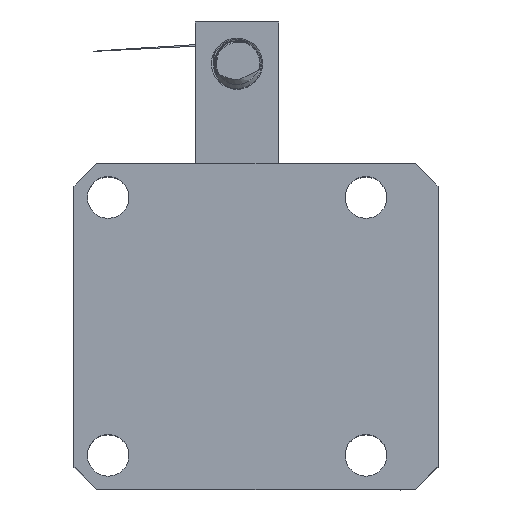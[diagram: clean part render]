
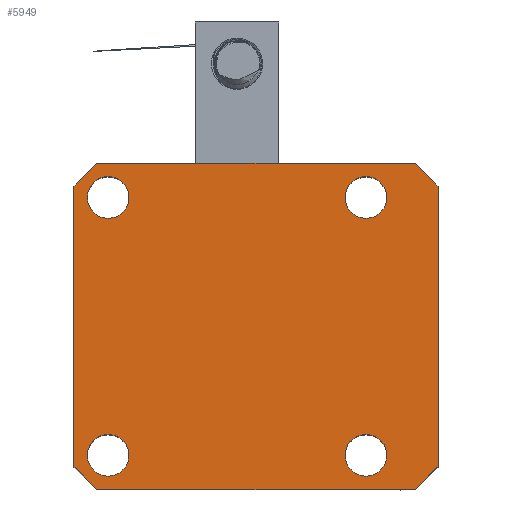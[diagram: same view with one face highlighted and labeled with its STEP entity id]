
A CAD part, top view. The second image highlights one B-rep face of the part: STEP entity #5949.
In plain terms, the highlighted planar face has unit normal (0, 0, 1).
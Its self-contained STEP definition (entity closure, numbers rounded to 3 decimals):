
#367=FACE_BOUND('',#915,.T.);
#368=FACE_BOUND('',#916,.T.);
#369=FACE_BOUND('',#917,.T.);
#370=FACE_BOUND('',#918,.T.);
#420=PLANE('',#6586);
#578=FACE_OUTER_BOUND('',#914,.T.);
#914=EDGE_LOOP('',(#4420,#4421,#4422,#4423,#4424,#4425,#4426,#4427));
#915=EDGE_LOOP('',(#4428));
#916=EDGE_LOOP('',(#4429));
#917=EDGE_LOOP('',(#4430));
#918=EDGE_LOOP('',(#4431));
#1746=LINE('',#10545,#2078);
#1747=LINE('',#10547,#2079);
#1748=LINE('',#10549,#2080);
#1749=LINE('',#10551,#2081);
#1750=LINE('',#10553,#2082);
#1751=LINE('',#10555,#2083);
#1752=LINE('',#10557,#2084);
#1753=LINE('',#10558,#2085);
#2078=VECTOR('',#7202,1000.);
#2079=VECTOR('',#7203,1000.);
#2080=VECTOR('',#7204,1000.);
#2081=VECTOR('',#7205,1000.);
#2082=VECTOR('',#7206,1000.);
#2083=VECTOR('',#7207,1000.);
#2084=VECTOR('',#7208,1000.);
#2085=VECTOR('',#7209,1000.);
#2379=CIRCLE('',#6545,5.5);
#2381=CIRCLE('',#6548,5.5);
#2383=CIRCLE('',#6551,5.5);
#2385=CIRCLE('',#6554,5.5);
#2579=VERTEX_POINT('',#9702);
#2581=VERTEX_POINT('',#9708);
#2583=VERTEX_POINT('',#9714);
#2585=VERTEX_POINT('',#9720);
#2632=VERTEX_POINT('',#10543);
#2633=VERTEX_POINT('',#10544);
#2634=VERTEX_POINT('',#10546);
#2635=VERTEX_POINT('',#10548);
#2636=VERTEX_POINT('',#10550);
#2637=VERTEX_POINT('',#10552);
#2638=VERTEX_POINT('',#10554);
#2639=VERTEX_POINT('',#10556);
#3336=EDGE_CURVE('',#2579,#2579,#2379,.T.);
#3339=EDGE_CURVE('',#2581,#2581,#2381,.T.);
#3342=EDGE_CURVE('',#2583,#2583,#2383,.T.);
#3345=EDGE_CURVE('',#2585,#2585,#2385,.T.);
#3421=EDGE_CURVE('',#2632,#2633,#1746,.T.);
#3422=EDGE_CURVE('',#2633,#2634,#1747,.T.);
#3423=EDGE_CURVE('',#2634,#2635,#1748,.T.);
#3424=EDGE_CURVE('',#2635,#2636,#1749,.T.);
#3425=EDGE_CURVE('',#2636,#2637,#1750,.T.);
#3426=EDGE_CURVE('',#2637,#2638,#1751,.T.);
#3427=EDGE_CURVE('',#2638,#2639,#1752,.T.);
#3428=EDGE_CURVE('',#2639,#2632,#1753,.T.);
#4420=ORIENTED_EDGE('',*,*,#3421,.T.);
#4421=ORIENTED_EDGE('',*,*,#3422,.T.);
#4422=ORIENTED_EDGE('',*,*,#3423,.T.);
#4423=ORIENTED_EDGE('',*,*,#3424,.T.);
#4424=ORIENTED_EDGE('',*,*,#3425,.T.);
#4425=ORIENTED_EDGE('',*,*,#3426,.T.);
#4426=ORIENTED_EDGE('',*,*,#3427,.T.);
#4427=ORIENTED_EDGE('',*,*,#3428,.T.);
#4428=ORIENTED_EDGE('',*,*,#3336,.T.);
#4429=ORIENTED_EDGE('',*,*,#3339,.T.);
#4430=ORIENTED_EDGE('',*,*,#3342,.T.);
#4431=ORIENTED_EDGE('',*,*,#3345,.T.);
#5949=ADVANCED_FACE('',(#578,#367,#368,#369,#370),#420,.T.);
#6545=AXIS2_PLACEMENT_3D('',#9704,#7103,#7104);
#6548=AXIS2_PLACEMENT_3D('',#9710,#7110,#7111);
#6551=AXIS2_PLACEMENT_3D('',#9716,#7117,#7118);
#6554=AXIS2_PLACEMENT_3D('',#9722,#7124,#7125);
#6586=AXIS2_PLACEMENT_3D('',#10542,#7200,#7201);
#7103=DIRECTION('center_axis',(0.,0.,
-1.));
#7104=DIRECTION('ref_axis',(0.,-1.,0.));
#7110=DIRECTION('center_axis',(0.,0.,-1.));
#7111=DIRECTION('ref_axis',(0.,-1.,0.));
#7117=DIRECTION('center_axis',(0.,0.,-1.));
#7118=DIRECTION('ref_axis',(0.,-1.,0.));
#7124=DIRECTION('center_axis',(0.,0.,
-1.));
#7125=DIRECTION('ref_axis',(0.,-1.,0.));
#7200=DIRECTION('center_axis',(0.,0.,1.));
#7201=DIRECTION('ref_axis',(1.,0.,0.));
#7202=DIRECTION('',(0.,-1.,0.));
#7203=DIRECTION('',(0.707,-0.707,0.));
#7204=DIRECTION('',(1.,0.,0.));
#7205=DIRECTION('',(0.707,0.707,0.));
#7206=DIRECTION('',(0.,1.,0.));
#7207=DIRECTION('',(-0.707,0.707,0.));
#7208=DIRECTION('',(-1.,0.,0.));
#7209=DIRECTION('',(-0.707,-0.707,0.));
#9702=CARTESIAN_POINT('',(-34.,-28.5,47.5));
#9704=CARTESIAN_POINT('Origin',(-34.,-34.,47.5));
#9708=CARTESIAN_POINT('',(34.,-28.5,47.5));
#9710=CARTESIAN_POINT('Origin',(34.,-34.,47.5));
#9714=CARTESIAN_POINT('',(34.,39.5,47.5));
#9716=CARTESIAN_POINT('Origin',(34.,34.,47.5));
#9720=CARTESIAN_POINT('',(-34.,39.5,47.5));
#9722=CARTESIAN_POINT('Origin',(-34.,34.,47.5));
#10542=CARTESIAN_POINT('Origin',(-43.,-43.,47.5));
#10543=CARTESIAN_POINT('',(-43.,37.,47.5));
#10544=CARTESIAN_POINT('',(-43.,-37.,47.5));
#10545=CARTESIAN_POINT('',(-43.,-43.,47.5));
#10546=CARTESIAN_POINT('',(-37.,-43.,47.5));
#10547=CARTESIAN_POINT('',(-43.,-37.,47.5));
#10548=CARTESIAN_POINT('',(47.,-43.,47.5));
#10549=CARTESIAN_POINT('',(-43.,-43.,47.5));
#10550=CARTESIAN_POINT('',(53.,-37.,47.5));
#10551=CARTESIAN_POINT('',(47.,-43.,47.5));
#10552=CARTESIAN_POINT('',(53.,37.,47.5));
#10553=CARTESIAN_POINT('',(53.,-43.,47.5));
#10554=CARTESIAN_POINT('',(47.,43.,47.5));
#10555=CARTESIAN_POINT('',(53.,37.,47.5));
#10556=CARTESIAN_POINT('',(-37.,43.,47.5));
#10557=CARTESIAN_POINT('',(-43.,43.,47.5));
#10558=CARTESIAN_POINT('',(-37.,43.,47.5));
